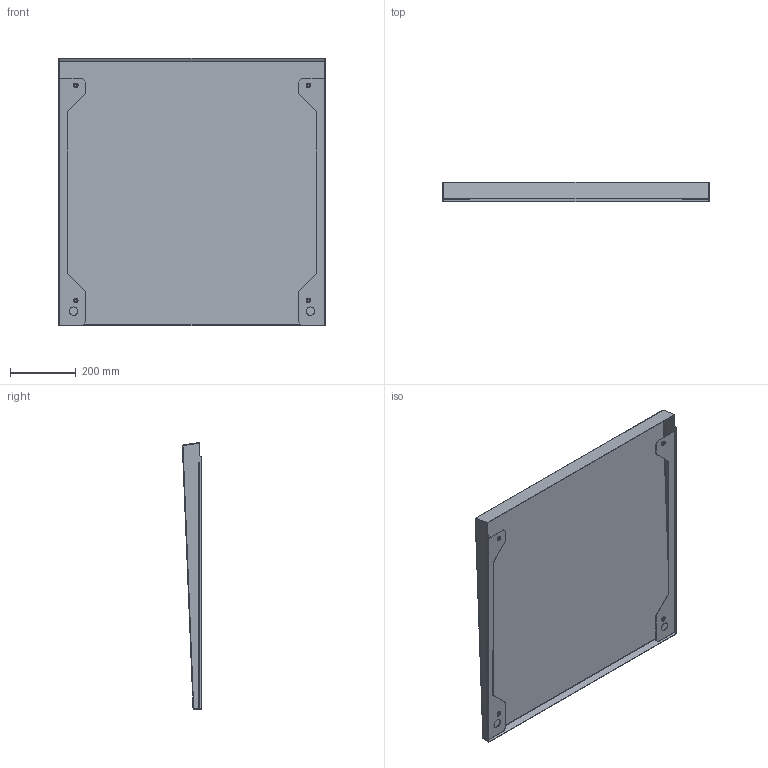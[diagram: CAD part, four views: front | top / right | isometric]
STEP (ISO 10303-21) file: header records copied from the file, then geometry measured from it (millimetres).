
FILE_DESCRIPTION (( 'STEP AP203' ), '1' );
FILE_NAME ('R 80.80 Cﾁ ﾊ鰀靍裲 鈞隆.STEP', '2012-11-21T04:26:55', ( 'system' ), ( '' ), 'SwSTEP 2.0', 'SolidWorks 2012', '' );
FILE_SCHEMA (( 'CONFIG_CONTROL_DESIGN' ));
Length unit declared in the file: millimetre
Products named in the file (1): R 80.80 Cﾁ ﾊ鰀靍裲 鈞隆
Bounding box: 810 x 59.13 x 813.68 mm (x, y, z)
Volume: 1173824.2 mm3; surface area: 1682971.7 mm2
Topology: 5 solids, 5 shells, 152 faces, 354 edges, 224 vertices
Faces by surface type: cylinder 60, plane 60, torus 16, sphere 8, cone 8
Entity records: 4419 total; most frequent: DIRECTION 824, CARTESIAN_POINT 731, ORIENTED_EDGE 692, EDGE_CURVE 346, AXIS2_PLACEMENT_3D 329, VERTEX_POINT 220, EDGE_LOOP 188, CIRCLE 176
